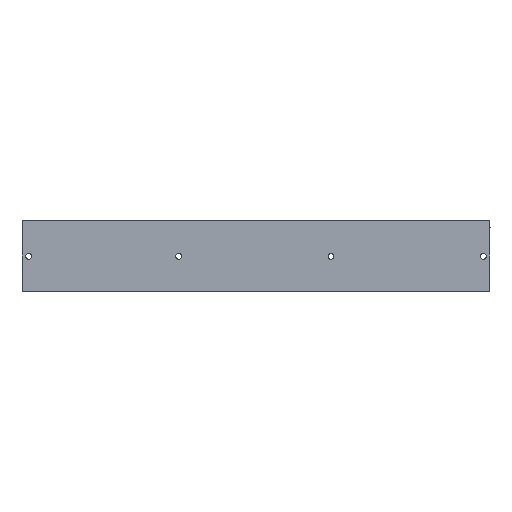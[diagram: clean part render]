
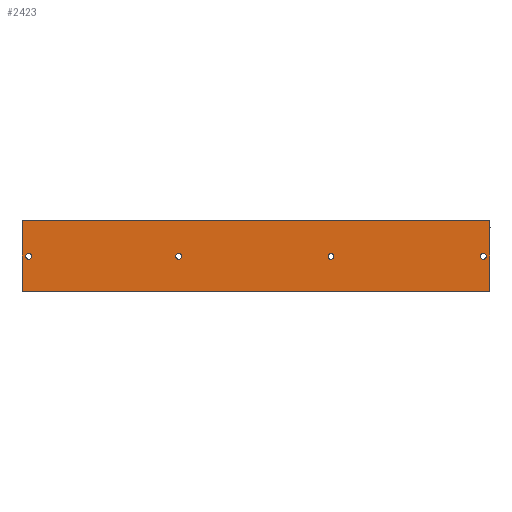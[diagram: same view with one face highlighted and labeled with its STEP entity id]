
A CAD part, front view. The second image highlights one B-rep face of the part: STEP entity #2423.
In plain terms, the highlighted planar face has unit normal (0, -1, 0).
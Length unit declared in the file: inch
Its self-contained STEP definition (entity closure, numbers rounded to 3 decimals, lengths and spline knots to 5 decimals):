
#325 = EDGE_CURVE ( 'NONE', #1447, #21318, #14541, .T. ) ;
#459 = EDGE_CURVE ( 'NONE', #1956, #6504, #707, .T. ) ;
#707 = CIRCLE ( 'NONE', #14313, 0.164 ) ;
#711 = CARTESIAN_POINT ( 'NONE',  ( 0., 0., 0. ) ) ;
#1447 = VERTEX_POINT ( 'NONE', #19637 ) ;
#1594 = EDGE_CURVE ( 'NONE', #25639, #45387, #22333, .T. ) ;
#1830 = ORIENTED_EDGE ( 'NONE', *, *, #20799, .F. ) ;
#1956 = VERTEX_POINT ( 'NONE', #6534 ) ;
#2165 = AXIS2_PLACEMENT_3D ( 'NONE', #41839, #20858, #45390 ) ;
#2423 = ADVANCED_FACE ( 'NONE', ( #5165, #14525, #33209, #41464, #22820 ), #39086, .F. ) ;
#3002 = CARTESIAN_POINT ( 'NONE',  ( 26.5, 0., -4. ) ) ;
#3906 = CARTESIAN_POINT ( 'NONE',  ( 0.375, 0., -2.184 ) ) ;
#3937 = ORIENTED_EDGE ( 'NONE', *, *, #459, .T. ) ;
#3958 = EDGE_CURVE ( 'NONE', #6504, #1956, #34922, .T. ) ;
#4053 = CIRCLE ( 'NONE', #6120, 0.164 ) ;
#5113 = LINE ( 'NONE', #40113, #22761 ) ;
#5165 = FACE_BOUND ( 'NONE', #7940, .T. ) ;
#5340 = VERTEX_POINT ( 'NONE', #3002 ) ;
#6120 = AXIS2_PLACEMENT_3D ( 'NONE', #30253, #9213, #33772 ) ;
#6298 = VECTOR ( 'NONE', #43768, 39.37008 ) ;
#6504 = VERTEX_POINT ( 'NONE', #9097 ) ;
#6534 = CARTESIAN_POINT ( 'NONE',  ( 8.865, 0., -2.184 ) ) ;
#6683 = CARTESIAN_POINT ( 'NONE',  ( 0., 0., 0. ) ) ;
#7024 = ORIENTED_EDGE ( 'NONE', *, *, #325, .T. ) ;
#7689 = DIRECTION ( 'NONE',  ( 0., 0., -1. ) ) ;
#7940 = EDGE_LOOP ( 'NONE', ( #43910, #3937 ) ) ;
#8352 = CIRCLE ( 'NONE', #20552, 0.164 ) ;
#8692 = EDGE_CURVE ( 'NONE', #24859, #28356, #39206, .T. ) ;
#9097 = CARTESIAN_POINT ( 'NONE',  ( 8.865, 0., -1.856 ) ) ;
#9128 = CARTESIAN_POINT ( 'NONE',  ( 8.865, 0., -2.02 ) ) ;
#9196 = ORIENTED_EDGE ( 'NONE', *, *, #8692, .T. ) ;
#9213 = DIRECTION ( 'NONE',  ( 0., 1., 0. ) ) ;
#10048 = DIRECTION ( 'NONE',  ( 0., 1., 0. ) ) ;
#10495 = EDGE_CURVE ( 'NONE', #45387, #25639, #8352, .T. ) ;
#10685 = EDGE_LOOP ( 'NONE', ( #28261, #17737, #1830, #7024 ) ) ;
#12688 = DIRECTION ( 'NONE',  ( 0., 0., 1. ) ) ;
#12953 = AXIS2_PLACEMENT_3D ( 'NONE', #31103, #10048, #34594 ) ;
#13701 = CARTESIAN_POINT ( 'NONE',  ( 26.125, 0., -2.02 ) ) ;
#13859 = AXIS2_PLACEMENT_3D ( 'NONE', #9128, #33697, #12688 ) ;
#14313 = AXIS2_PLACEMENT_3D ( 'NONE', #40084, #39845, #40053 ) ;
#14525 = FACE_BOUND ( 'NONE', #42537, .T. ) ;
#14541 = LINE ( 'NONE', #43826, #6298 ) ;
#15070 = CIRCLE ( 'NONE', #42733, 0.164 ) ;
#15407 = DIRECTION ( 'NONE',  ( 0., 1., 0. ) ) ;
#15414 = DIRECTION ( 'NONE',  ( 0., 0., 1. ) ) ;
#15462 = CARTESIAN_POINT ( 'NONE',  ( 26.125, 0., -2.02 ) ) ;
#17237 = DIRECTION ( 'NONE',  ( 0., 0., 1. ) ) ;
#17737 = ORIENTED_EDGE ( 'NONE', *, *, #23083, .F. ) ;
#17810 = LINE ( 'NONE', #711, #35316 ) ;
#18522 = AXIS2_PLACEMENT_3D ( 'NONE', #38758, #39824, #37681 ) ;
#19038 = CARTESIAN_POINT ( 'NONE',  ( 17.495, 0., -2.02 ) ) ;
#19533 = EDGE_LOOP ( 'NONE', ( #21516, #9196 ) ) ;
#19637 = CARTESIAN_POINT ( 'NONE',  ( 26.5, 0., 0. ) ) ;
#19831 = CARTESIAN_POINT ( 'NONE',  ( 26.5, 0., 0. ) ) ;
#20552 = AXIS2_PLACEMENT_3D ( 'NONE', #13701, #38288, #17237 ) ;
#20799 = EDGE_CURVE ( 'NONE', #1447, #5340, #43094, .T. ) ;
#20858 = DIRECTION ( 'NONE',  ( 0., 1., 0. ) ) ;
#20931 = ORIENTED_EDGE ( 'NONE', *, *, #10495, .T. ) ;
#21318 = VERTEX_POINT ( 'NONE', #6683 ) ;
#21516 = ORIENTED_EDGE ( 'NONE', *, *, #37232, .T. ) ;
#22333 = CIRCLE ( 'NONE', #39974, 0.164 ) ;
#22576 = DIRECTION ( 'NONE',  ( 0., 0., 1. ) ) ;
#22761 = VECTOR ( 'NONE', #43635, 39.37008 ) ;
#22820 = FACE_OUTER_BOUND ( 'NONE', #10685, .T. ) ;
#23019 = EDGE_CURVE ( 'NONE', #21318, #28384, #17810, .T. ) ;
#23083 = EDGE_CURVE ( 'NONE', #5340, #28384, #5113, .T. ) ;
#23535 = DIRECTION ( 'NONE',  ( 0., 0., -1. ) ) ;
#24077 = ORIENTED_EDGE ( 'NONE', *, *, #27730, .T. ) ;
#24859 = VERTEX_POINT ( 'NONE', #3906 ) ;
#24970 = ORIENTED_EDGE ( 'NONE', *, *, #1594, .T. ) ;
#25639 = VERTEX_POINT ( 'NONE', #27201 ) ;
#26908 = ORIENTED_EDGE ( 'NONE', *, *, #40660, .T. ) ;
#27201 = CARTESIAN_POINT ( 'NONE',  ( 26.125, 0., -2.184 ) ) ;
#27730 = EDGE_CURVE ( 'NONE', #44365, #28159, #44952, .T. ) ;
#28159 = VERTEX_POINT ( 'NONE', #34543 ) ;
#28261 = ORIENTED_EDGE ( 'NONE', *, *, #23019, .T. ) ;
#28356 = VERTEX_POINT ( 'NONE', #35601 ) ;
#28384 = VERTEX_POINT ( 'NONE', #32092 ) ;
#30253 = CARTESIAN_POINT ( 'NONE',  ( 0.375, 0., -2.02 ) ) ;
#31103 = CARTESIAN_POINT ( 'NONE',  ( 17.495, 0., -2.02 ) ) ;
#32092 = CARTESIAN_POINT ( 'NONE',  ( 0., 0., -4. ) ) ;
#33209 = FACE_BOUND ( 'NONE', #19533, .T. ) ;
#33697 = DIRECTION ( 'NONE',  ( 0., 1., 0. ) ) ;
#33741 = VECTOR ( 'NONE', #23535, 39.37008 ) ;
#33772 = DIRECTION ( 'NONE',  ( 0., 0., 1. ) ) ;
#34271 = CARTESIAN_POINT ( 'NONE',  ( 26.125, 0., -1.856 ) ) ;
#34543 = CARTESIAN_POINT ( 'NONE',  ( 17.495, 0., -2.184 ) ) ;
#34594 = DIRECTION ( 'NONE',  ( 0., 0., 1. ) ) ;
#34922 = CIRCLE ( 'NONE', #13859, 0.164 ) ;
#35316 = VECTOR ( 'NONE', #7689, 39.37008 ) ;
#35601 = CARTESIAN_POINT ( 'NONE',  ( 0.375, 0., -1.856 ) ) ;
#35932 = CARTESIAN_POINT ( 'NONE',  ( 17.495, 0., -1.856 ) ) ;
#37232 = EDGE_CURVE ( 'NONE', #28356, #24859, #4053, .T. ) ;
#37681 = DIRECTION ( 'NONE',  ( 0., 0., 1. ) ) ;
#38288 = DIRECTION ( 'NONE',  ( 0., 1., 0. ) ) ;
#38758 = CARTESIAN_POINT ( 'NONE',  ( 26.5, 0., 0. ) ) ;
#39086 = PLANE ( 'NONE',  #18522 ) ;
#39206 = CIRCLE ( 'NONE', #2165, 0.164 ) ;
#39824 = DIRECTION ( 'NONE',  ( 0., 1., 0. ) ) ;
#39845 = DIRECTION ( 'NONE',  ( 0., 1., 0. ) ) ;
#39974 = AXIS2_PLACEMENT_3D ( 'NONE', #15462, #15407, #15414 ) ;
#40053 = DIRECTION ( 'NONE',  ( 0., 0., 1. ) ) ;
#40084 = CARTESIAN_POINT ( 'NONE',  ( 8.865, 0., -2.02 ) ) ;
#40113 = CARTESIAN_POINT ( 'NONE',  ( 26.5, 0., -4. ) ) ;
#40660 = EDGE_CURVE ( 'NONE', #28159, #44365, #15070, .T. ) ;
#41464 = FACE_BOUND ( 'NONE', #42016, .T. ) ;
#41839 = CARTESIAN_POINT ( 'NONE',  ( 0.375, 0., -2.02 ) ) ;
#42016 = EDGE_LOOP ( 'NONE', ( #20931, #24970 ) ) ;
#42537 = EDGE_LOOP ( 'NONE', ( #24077, #26908 ) ) ;
#42733 = AXIS2_PLACEMENT_3D ( 'NONE', #19038, #43567, #22576 ) ;
#43094 = LINE ( 'NONE', #19831, #33741 ) ;
#43567 = DIRECTION ( 'NONE',  ( 0., 1., 0. ) ) ;
#43635 = DIRECTION ( 'NONE',  ( -1., 0., 0. ) ) ;
#43768 = DIRECTION ( 'NONE',  ( -1., 0., 0. ) ) ;
#43826 = CARTESIAN_POINT ( 'NONE',  ( 26.5, 0., 0. ) ) ;
#43910 = ORIENTED_EDGE ( 'NONE', *, *, #3958, .T. ) ;
#44365 = VERTEX_POINT ( 'NONE', #35932 ) ;
#44952 = CIRCLE ( 'NONE', #12953, 0.164 ) ;
#45387 = VERTEX_POINT ( 'NONE', #34271 ) ;
#45390 = DIRECTION ( 'NONE',  ( 0., 0., 1. ) ) ;
